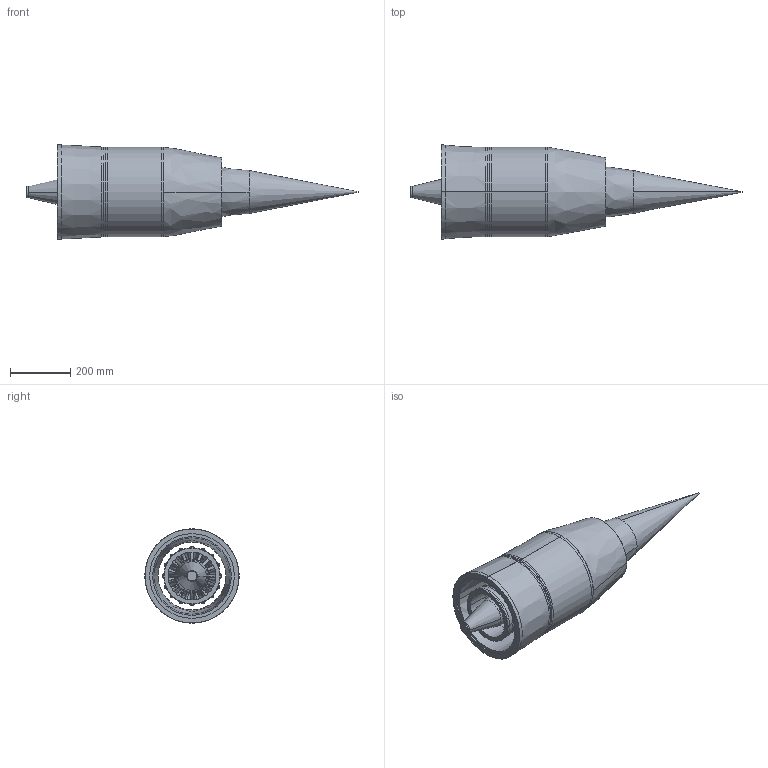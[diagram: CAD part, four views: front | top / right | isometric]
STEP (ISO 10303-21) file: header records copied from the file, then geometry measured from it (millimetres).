
FILE_DESCRIPTION (( 'STEP AP214' ), '1' );
FILE_NAME ('122DLm5p2079.STEP', '2020-09-16T15:04:24', ( '' ), ( '' ), 'SwSTEP 2.0', 'SolidWorks 2019', '' );
FILE_SCHEMA (( 'AUTOMOTIVE_DESIGN' ));
Length unit declared in the file: inch
Products named in the file (1): 122DLm5p2079
Bounding box: 1102.97 x 314 x 314 mm (x, y, z)
Volume: 9020919.9 mm3; surface area: 2571947.2 mm2
Topology: 41 solids, 41 shells, 477 faces, 1112 edges, 738 vertices
Faces by surface type: bspline 270, plane 103, cylinder 68, cone 26, torus 10
Entity records: 96429 total; most frequent: CARTESIAN_POINT 81010, ORIENTED_EDGE 2224, EDGE_CURVE 1112, DIRECTION 918, B_SPLINE_CURVE_WITH_KNOTS 814, VERTEX_POINT 738, DIMENSIONAL_EXPONENTS 520, LENGTH_MEASURE_WITH_UNIT 520
